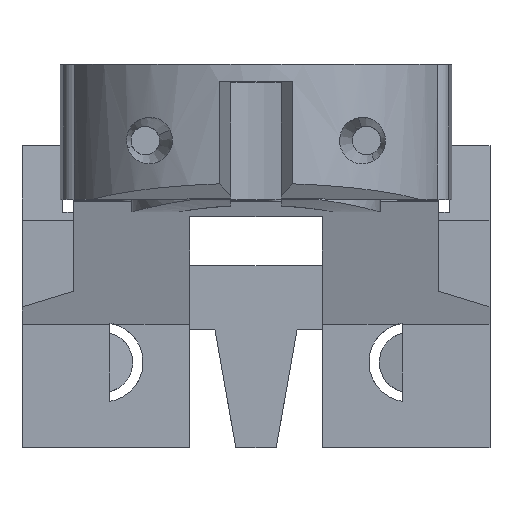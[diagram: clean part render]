
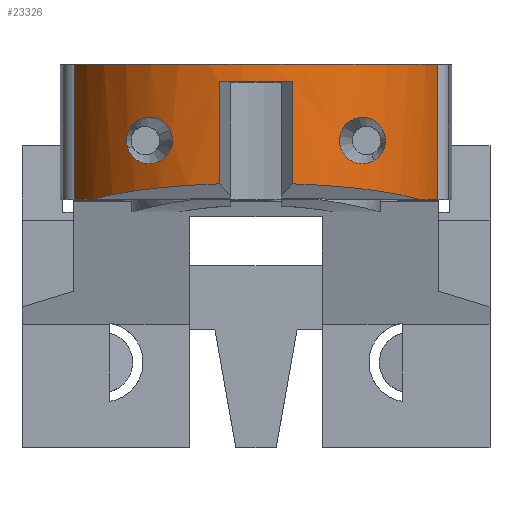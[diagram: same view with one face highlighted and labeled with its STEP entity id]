
A CAD part, top view. The second image highlights one B-rep face of the part: STEP entity #23326.
In plain terms, the highlighted cylindrical face has radius 12.15 mm (diameter 24.3 mm), a partial arc.
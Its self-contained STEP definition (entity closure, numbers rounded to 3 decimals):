
#15161=CARTESIAN_POINT(' ',(-11.5,8.525,3.921));
#15162=VERTEX_POINT(' ',#15161);
#15176=CARTESIAN_POINT(' ',(0.,8.525,0.));
#15181=DIRECTION(' ',(0.,-1.,0.));
#15186=DIRECTION(' ',(0.947,0.,0.323));
#15191=AXIS2_PLACEMENT_3D(' ',#15176,#15181,#15186);
#15196=CIRCLE(' ',#15191,12.15);
#15201=CARTESIAN_POINT(' ',(11.5,8.525,3.921));
#15202=VERTEX_POINT(' ',#15201);
#15206=EDGE_CURVE(' ',#15202,#15162,#15196,.T.);
#19611=CARTESIAN_POINT(' ',(-10.279,0.,6.479));
#19612=VERTEX_POINT(' ',#19611);
#19626=CARTESIAN_POINT(' ',(0.,0.,0.));
#19631=DIRECTION(' ',(0.,-1.,0.));
#19636=DIRECTION(' ',(-0.846,0.,0.533));
#19641=AXIS2_PLACEMENT_3D(' ',#19626,#19631,#19636);
#19646=CIRCLE(' ',#19641,12.15);
#19651=CARTESIAN_POINT(' ',(-11.5,0.,3.921));
#19652=VERTEX_POINT(' ',#19651);
#19656=EDGE_CURVE(' ',#19612,#19652,#19646,.T.);
#19881=CARTESIAN_POINT(' ',(11.5,0.,3.921));
#19882=VERTEX_POINT(' ',#19881);
#19896=CARTESIAN_POINT(' ',(0.,0.,0.));
#19901=DIRECTION(' ',(0.,-1.,0.));
#19906=DIRECTION(' ',(0.947,0.,0.323));
#19911=AXIS2_PLACEMENT_3D(' ',#19896,#19901,#19906);
#19916=CIRCLE(' ',#19911,12.15);
#19921=CARTESIAN_POINT(' ',(10.279,0.,6.479));
#19922=VERTEX_POINT(' ',#19921);
#19926=EDGE_CURVE(' ',#19882,#19922,#19916,.T.);
#22591=CARTESIAN_POINT(' ',(-11.5,8.525,3.921));
#22596=DIRECTION(' ',(0.,-1.,0.));
#22601=VECTOR(' ',#22596,1.);
#22606=LINE(' ',#22591,#22601);
#22611=EDGE_CURVE(' ',#15162,#19652,#22606,.T.);
#22686=CARTESIAN_POINT(' ',(0.,8.525,0.));
#22691=DIRECTION(' ',(0.,-1.,0.));
#22696=DIRECTION(' ',(0.947,0.,0.323));
#22701=AXIS2_PLACEMENT_3D(' ',#22686,#22691,#22696);
#22706=CYLINDRICAL_SURFACE(' ',#22701,12.15);
#22711=CARTESIAN_POINT(' ',(0.057,-1.108,0.196));
#22716=DIRECTION(' ',(0.,-0.985,0.174));
#22721=DIRECTION(' ',(-0.197,0.17,0.966));
#22726=AXIS2_PLACEMENT_3D(' ',#22711,#22716,#22721);
#22731=CIRCLE(' ',#22726,12.146);
#22736=CARTESIAN_POINT(' ',(-2.335,0.96,11.924));
#22737=VERTEX_POINT(' ',#22736);
#22741=EDGE_CURVE(' ',#22737,#19612,#22731,.T.);
#22746=ORIENTED_EDGE(' ',*,*,#22741,.F.);
#22751=CARTESIAN_POINT(' ',(-2.335,0.96,11.924));
#22756=DIRECTION(' ',(0.,1.,0.));
#22761=VECTOR(' ',#22756,1.);
#22766=LINE(' ',#22751,#22761);
#22771=CARTESIAN_POINT(' ',(-2.335,7.425,11.924));
#22772=VERTEX_POINT(' ',#22771);
#22776=EDGE_CURVE(' ',#22737,#22772,#22766,.T.);
#22781=ORIENTED_EDGE(' ',*,*,#22776,.T.);
#22786=CARTESIAN_POINT(' ',(0.,7.425,0.));
#22791=DIRECTION(' ',(0.,-1.,0.));
#22796=DIRECTION(' ',(0.192,0.,0.981));
#22801=AXIS2_PLACEMENT_3D(' ',#22786,#22791,#22796);
#22806=CIRCLE(' ',#22801,12.15);
#22811=CARTESIAN_POINT(' ',(2.335,7.425,11.924));
#22812=VERTEX_POINT(' ',#22811);
#22816=EDGE_CURVE(' ',#22812,#22772,#22806,.T.);
#22821=ORIENTED_EDGE(' ',*,*,#22816,.F.);
#22826=CARTESIAN_POINT(' ',(2.335,7.425,11.924));
#22831=DIRECTION(' ',(0.,-1.,0.));
#22836=VECTOR(' ',#22831,1.);
#22841=LINE(' ',#22826,#22836);
#22846=CARTESIAN_POINT(' ',(2.335,0.96,11.924));
#22847=VERTEX_POINT(' ',#22846);
#22851=EDGE_CURVE(' ',#22812,#22847,#22841,.T.);
#22856=ORIENTED_EDGE(' ',*,*,#22851,.T.);
#22861=CARTESIAN_POINT(' ',(-0.062,-1.109,0.19));
#22866=DIRECTION(' ',(0.,-0.985,0.174));
#22871=DIRECTION(' ',(0.851,0.091,0.517));
#22876=AXIS2_PLACEMENT_3D(' ',#22861,#22866,#22871);
#22881=CIRCLE(' ',#22876,12.153);
#22886=EDGE_CURVE(' ',#19922,#22847,#22881,.T.);
#22891=ORIENTED_EDGE(' ',*,*,#22886,.F.);
#22896=ORIENTED_EDGE(' ',*,*,#19926,.F.);
#22901=CARTESIAN_POINT(' ',(11.5,8.525,3.921));
#22906=DIRECTION(' ',(0.,-1.,0.));
#22911=VECTOR(' ',#22906,1.);
#22916=LINE(' ',#22901,#22911);
#22921=EDGE_CURVE(' ',#15202,#19882,#22916,.T.);
#22926=ORIENTED_EDGE(' ',*,*,#22921,.F.);
#22931=ORIENTED_EDGE(' ',*,*,#15206,.T.);
#22936=ORIENTED_EDGE(' ',*,*,#22611,.T.);
#22941=ORIENTED_EDGE(' ',*,*,#19656,.F.);
#22946=EDGE_LOOP(' ',(#22746,#22781,#22821,#22856,#22891,#22896,#22926,#22931,#22936,#22941));
#22951=FACE_OUTER_BOUND(' ',#22946,.T.);
#22956=CARTESIAN_POINT(' ',(-5.437,4.355,10.865));
#22961=CARTESIAN_POINT(' ',(-5.291,4.058,10.938));
#22966=CARTESIAN_POINT(' ',(-5.248,3.696,10.958));
#22971=CARTESIAN_POINT(' ',(-5.411,2.98,10.879));
#22976=CARTESIAN_POINT(' ',(-5.664,2.639,10.755));
#22981=CARTESIAN_POINT(' ',(-6.138,2.348,10.487));
#22986=CARTESIAN_POINT(' ',(-6.299,2.28,10.393));
#22991=CARTESIAN_POINT(' ',(-6.714,2.218,10.129));
#22996=CARTESIAN_POINT(' ',(-6.957,2.239,9.963));
#23001=CARTESIAN_POINT(' ',(-7.354,2.349,9.676));
#23006=CARTESIAN_POINT(' ',(-7.523,2.45,9.543));
#23011=CARTESIAN_POINT(' ',(-7.867,2.746,9.262));
#23016=CARTESIAN_POINT(' ',(-8.025,2.969,9.123));
#23021=CARTESIAN_POINT(' ',(-8.113,3.233,9.045));
#23026=B_SPLINE_CURVE_WITH_KNOTS(' ',3,(#22956,#22961,#22966,#22971,#22976,#22981,#22986,#22991,#22996,#23001,#23006,#23011,#23016,#23021),.UNSPECIFIED.,.F.,.U.,(4,2,2,2,2,2,4),(0.,0.207,0.456,0.576,0.676,0.82,1.),.UNSPECIFIED.);
#23031=CARTESIAN_POINT(' ',(-5.437,4.355,10.865));
#23032=VERTEX_POINT(' ',#23031);
#23036=CARTESIAN_POINT(' ',(-8.113,3.233,9.045));
#23037=VERTEX_POINT(' ',#23036);
#23041=EDGE_CURVE(' ',#23032,#23037,#23026,.T.);
#23046=ORIENTED_EDGE(' ',*,*,#23041,.T.);
#23051=CARTESIAN_POINT(' ',(-8.113,3.233,9.045));
#23056=CARTESIAN_POINT(' ',(-8.212,3.531,8.956));
#23061=CARTESIAN_POINT(' ',(-8.21,3.864,8.957));
#23066=CARTESIAN_POINT(' ',(-8.005,4.501,9.141));
#23071=CARTESIAN_POINT(' ',(-7.761,4.796,9.356));
#23076=CARTESIAN_POINT(' ',(-7.263,5.088,9.744));
#23081=CARTESIAN_POINT(' ',(-7.021,5.169,9.922));
#23086=CARTESIAN_POINT(' ',(-6.374,5.169,10.353));
#23091=CARTESIAN_POINT(' ',(-6.099,5.05,10.511));
#23096=CARTESIAN_POINT(' ',(-5.694,4.749,10.735));
#23101=CARTESIAN_POINT(' ',(-5.541,4.566,10.814));
#23106=CARTESIAN_POINT(' ',(-5.437,4.355,10.865));
#23111=B_SPLINE_CURVE_WITH_KNOTS(' ',3,(#23051,#23056,#23061,#23066,#23071,#23076,#23081,#23086,#23091,#23096,#23101,#23106),.UNSPECIFIED.,.F.,.U.,(4,2,2,2,2,4),(0.,0.207,0.456,0.622,0.829,1.),.UNSPECIFIED.);
#23116=EDGE_CURVE(' ',#23037,#23032,#23111,.T.);
#23121=ORIENTED_EDGE(' ',*,*,#23116,.T.);
#23126=EDGE_LOOP(' ',(#23046,#23121));
#23131=FACE_BOUND(' ',#23126,.T.);
#23136=CARTESIAN_POINT(' ',(7.477,2.438,9.577));
#23141=CARTESIAN_POINT(' ',(7.324,2.346,9.697));
#23146=CARTESIAN_POINT(' ',(7.157,2.273,9.823));
#23151=CARTESIAN_POINT(' ',(6.748,2.221,10.106));
#23156=CARTESIAN_POINT(' ',(6.528,2.238,10.249));
#23161=CARTESIAN_POINT(' ',(6.206,2.319,10.448));
#23166=CARTESIAN_POINT(' ',(6.082,2.379,10.519));
#23171=CARTESIAN_POINT(' ',(5.687,2.633,10.741));
#23176=CARTESIAN_POINT(' ',(5.459,2.923,10.855));
#23181=CARTESIAN_POINT(' ',(5.232,3.637,10.967));
#23186=CARTESIAN_POINT(' ',(5.276,4.083,10.947));
#23191=CARTESIAN_POINT(' ',(5.65,4.731,10.758));
#23196=CARTESIAN_POINT(' ',(5.902,4.949,10.626));
#23201=CARTESIAN_POINT(' ',(6.286,5.1,10.398));
#23206=CARTESIAN_POINT(' ',(6.366,5.124,10.349));
#23211=CARTESIAN_POINT(' ',(6.455,5.142,10.294));
#23216=B_SPLINE_CURVE_WITH_KNOTS(' ',3,(#23136,#23141,#23146,#23151,#23156,#23161,#23166,#23171,#23176,#23181,#23186,#23191,#23196,#23201,#23206,#23211),.UNSPECIFIED.,.F.,.U.,(4,2,2,2,2,2,2,4),(0.,0.12,0.2,0.296,0.503,0.752,0.951,1.),.UNSPECIFIED.);
#23221=CARTESIAN_POINT(' ',(7.477,2.438,9.577));
#23222=VERTEX_POINT(' ',#23221);
#23226=CARTESIAN_POINT(' ',(6.455,5.142,10.294));
#23227=VERTEX_POINT(' ',#23226);
#23231=EDGE_CURVE(' ',#23222,#23227,#23216,.T.);
#23236=ORIENTED_EDGE(' ',*,*,#23231,.T.);
#23241=CARTESIAN_POINT(' ',(6.455,5.142,10.294));
#23246=CARTESIAN_POINT(' ',(6.624,5.175,10.188));
#23251=CARTESIAN_POINT(' ',(6.838,5.176,10.045));
#23256=CARTESIAN_POINT(' ',(7.252,5.095,9.753));
#23261=CARTESIAN_POINT(' ',(7.442,5.001,9.606));
#23266=CARTESIAN_POINT(' ',(7.962,4.601,9.189));
#23271=CARTESIAN_POINT(' ',(8.201,4.16,8.964));
#23276=CARTESIAN_POINT(' ',(8.178,3.298,8.986));
#23281=CARTESIAN_POINT(' ',(8.03,2.959,9.123));
#23286=CARTESIAN_POINT(' ',(7.716,2.607,9.386));
#23291=CARTESIAN_POINT(' ',(7.604,2.514,9.478));
#23296=CARTESIAN_POINT(' ',(7.477,2.438,9.577));
#23301=B_SPLINE_CURVE_WITH_KNOTS(' ',3,(#23241,#23246,#23251,#23256,#23261,#23266,#23271,#23276,#23281,#23286,#23291,#23296),.UNSPECIFIED.,.F.,.U.,(4,2,2,2,2,4),(0.,0.12,0.293,0.637,0.886,1.),.UNSPECIFIED.);
#23306=EDGE_CURVE(' ',#23227,#23222,#23301,.T.);
#23311=ORIENTED_EDGE(' ',*,*,#23306,.T.);
#23316=EDGE_LOOP(' ',(#23236,#23311));
#23321=FACE_BOUND(' ',#23316,.T.);
#23326=ADVANCED_FACE(' ',(#22951,#23131,#23321),#22706,.T.);
